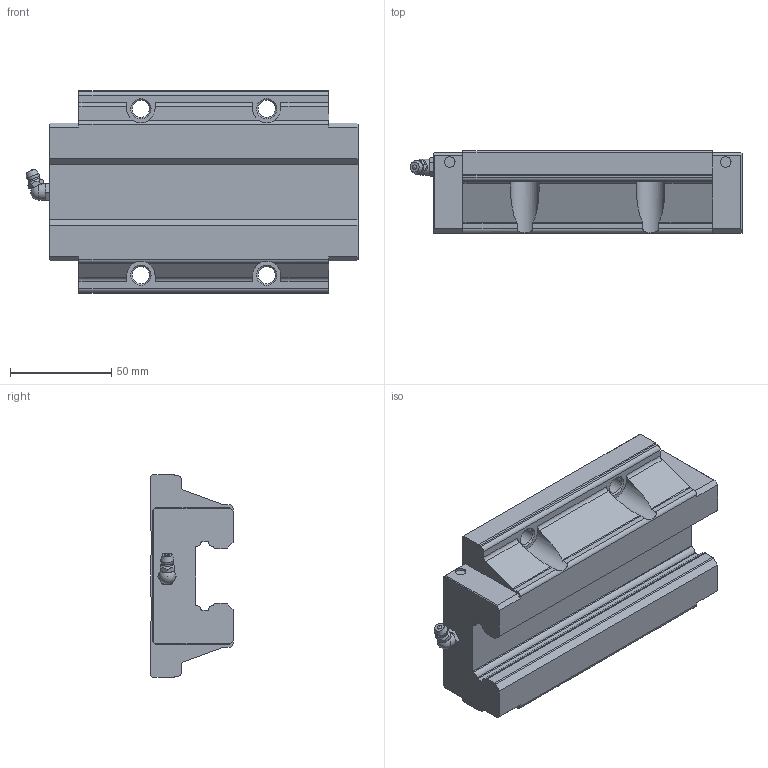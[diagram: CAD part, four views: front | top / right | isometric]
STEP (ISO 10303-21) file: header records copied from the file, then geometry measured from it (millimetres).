
FILE_DESCRIPTION(/* description */ ('STEP AP214'),/* implementation_level */ '2;1');
FILE_NAME(/* name */ 'SHS35LC1SS(GK) BLOCK(B-M6F1)',/* time_stamp */ '2023-05-26T08:32:08+02:00',/* author */ ('License CC BY-ND 4.0'),/* organization */ ('CADENAS'),/* preprocessor_version */ 'ST-DEVELOPER v19.3',/* originating_system */ 'PARTsolutions',/* authorisation */ ' ');
FILE_SCHEMA (('AUTOMOTIVE_DESIGN {1 0 10303 214 3 1 1}'));
Length unit declared in the file: millimetre
Products named in the file (3): SHS35LC1SS(GK) BLOCK(B-M6F1); B-M6F-SHS_grease_nipple_joint; SHS35LCSSB-M6F1 Slide25-55
Assembly tree (2 placements, depth 2):
  SHS35LC1SS(GK) BLOCK(B-M6F1)
    B-M6F-SHS_grease_nipple_joint
    SHS35LCSSB-M6F1 Slide25-55
Bounding box: 163.6 x 40.5 x 100 mm (x, y, z)
Volume: 408592.1 mm3; surface area: 53077.3 mm2
Topology: 2 solids, 2 shells, 174 faces, 480 edges, 315 vertices
Faces by surface type: plane 98, cylinder 50, cone 21, sphere 3, torus 2
Full cylindrical faces by diameter (mm): 4.917 x2, 5.2 x4, 6 x1, 8 x1, 8.5 x4
Entity records: 5417 total; most frequent: CARTESIAN_POINT 1074, DIRECTION 876, ORIENTED_EDGE 864, EDGE_CURVE 432, AXIS2_PLACEMENT_3D 303, VERTEX_POINT 301, LINE 270, VECTOR 270
